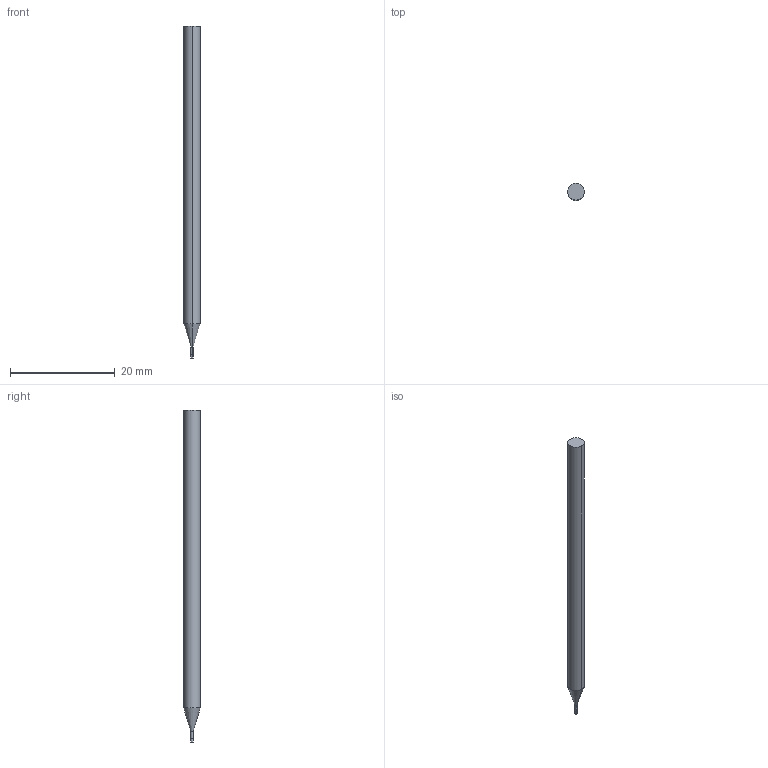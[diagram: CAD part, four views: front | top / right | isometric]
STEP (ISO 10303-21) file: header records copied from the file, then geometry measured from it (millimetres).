
FILE_DESCRIPTION((' '),'2;1');
FILE_NAME( '3MVS0156N5AH.stp', '2026-01-21T19:06:22', (' '), ('--- Datakit www.datakit.com---'), ' Datakit CrossCadWare V2025.4 Sep 19 2025', 'Mastercam 2027', ' ');
FILE_SCHEMA(('AUTOMOTIVE_DESIGN { 1 0 10303 214 1 1 1 1 }'));
Length unit declared in the file: inch
Products named in the file (1): 3MVS0156N5AH
Bounding box: 3.17 x 3.17 x 63.5 mm (x, y, z)
Volume: 465 mm3; surface area: 605.5 mm2
Topology: 1 solids, 1 shells, 10 faces, 18 edges, 10 vertices
Faces by surface type: cylinder 6, plane 2, cone 2
Entity records: 323 total; most frequent: DIRECTION 58, CARTESIAN_POINT 43, ORIENTED_EDGE 36, AXIS2_PLACEMENT_3D 25, EDGE_CURVE 18, VERTEX_POINT 10, CIRCLE 10, EDGE_LOOP 10
